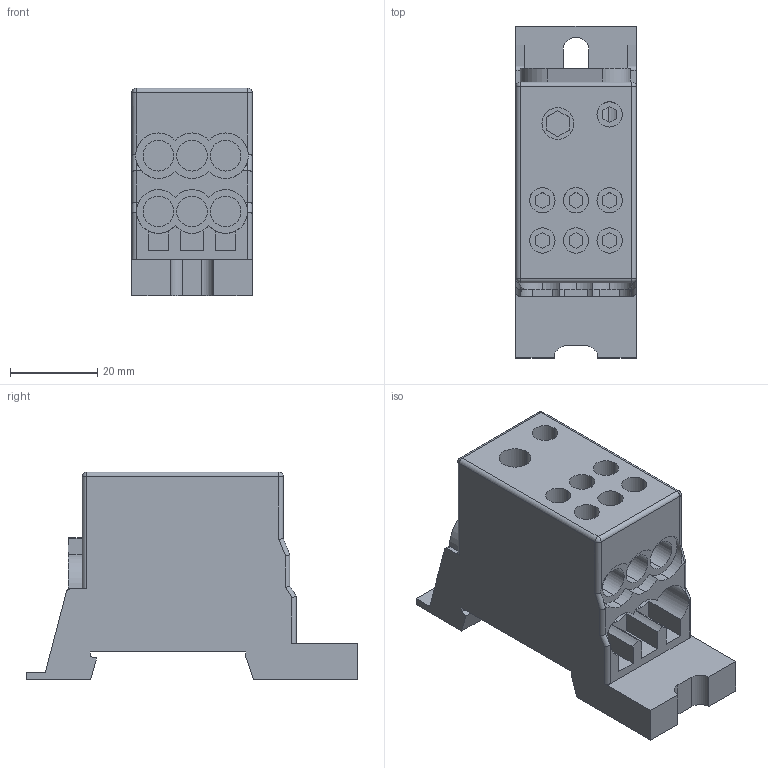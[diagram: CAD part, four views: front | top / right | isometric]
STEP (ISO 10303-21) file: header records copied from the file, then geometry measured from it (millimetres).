
FILE_DESCRIPTION (( 'STEP AP214' ), '1' );
FILE_NAME ('ﾐﾁﾄ-160.STEP', '2023-09-13T12:13:11', ( '' ), ( '' ), 'SwSTEP 2.0', 'SolidWorks 2018', '' );
FILE_SCHEMA (( 'AUTOMOTIVE_DESIGN' ));
Length unit declared in the file: millimetre
Products named in the file (1): ﾐﾁﾄ-160
Bounding box: 27.5 x 75.95 x 47.5 mm (x, y, z)
Volume: 49954.6 mm3; surface area: 17062.4 mm2
Topology: 1 solids, 1 shells, 206 faces, 531 edges, 345 vertices
Faces by surface type: plane 123, cylinder 79, sphere 4
Entity records: 6283 total; most frequent: CARTESIAN_POINT 1152, DIRECTION 1071, ORIENTED_EDGE 1054, EDGE_CURVE 527, AXIS2_PLACEMENT_3D 360, VECTOR 351, LINE 351, VERTEX_POINT 345
